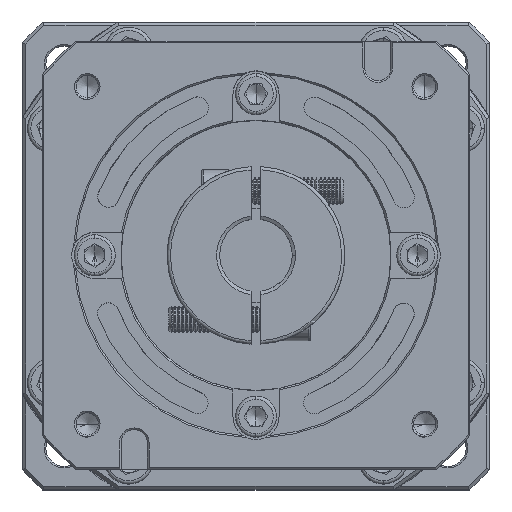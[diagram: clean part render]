
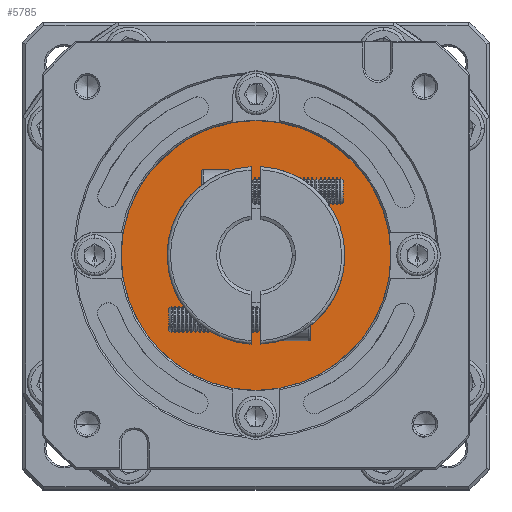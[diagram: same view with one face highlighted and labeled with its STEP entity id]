
A CAD part, top view. The second image highlights one B-rep face of the part: STEP entity #5785.
In plain terms, the highlighted planar face has unit normal (0, 0, 1).
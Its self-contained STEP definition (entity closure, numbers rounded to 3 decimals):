
#231 = DIRECTION ( 'NONE',  ( 0., 1., 0. ) ) ;
#4929 = EDGE_CURVE ( 'NONE', #55986, #148424, #42625, .T. ) ;
#5244 = EDGE_LOOP ( 'NONE', ( #45092, #140613 ) ) ;
#5785 = ADVANCED_FACE ( 'NONE', ( #62034, #22411 ), #90863, .T. ) ;
#8577 = DIRECTION ( 'NONE',  ( 0., 1., 0. ) ) ;
#9914 = CIRCLE ( 'NONE', #83239, 20. ) ;
#22411 = FACE_BOUND ( 'NONE', #5244, .T. ) ;
#35730 = DIRECTION ( 'NONE',  ( 0., 0., 1. ) ) ;
#37062 = CARTESIAN_POINT ( 'NONE',  ( -87.738, 67.014, -62.999 ) ) ;
#42625 = CIRCLE ( 'NONE', #95662, 41. ) ;
#42720 = CARTESIAN_POINT ( 'NONE',  ( -87.738, 87.014, -62.999 ) ) ;
#44326 = DIRECTION ( 'NONE',  ( 0., 1., 0. ) ) ;
#45092 = ORIENTED_EDGE ( 'NONE', *, *, #55431, .T. ) ;
#45818 = CIRCLE ( 'NONE', #98846, 20. ) ;
#47773 = DIRECTION ( 'NONE',  ( 0., 1., 0. ) ) ;
#51900 = DIRECTION ( 'NONE',  ( 0., 0., -1. ) ) ;
#55431 = EDGE_CURVE ( 'NONE', #124017, #97624, #9914, .T. ) ;
#55986 = VERTEX_POINT ( 'NONE', #114002 ) ;
#62034 = FACE_OUTER_BOUND ( 'NONE', #130348, .T. ) ;
#71934 = CARTESIAN_POINT ( 'NONE',  ( -87.738, 107.014, -62.999 ) ) ;
#73748 = CARTESIAN_POINT ( 'NONE',  ( -87.738, 46.014, -62.999 ) ) ;
#74404 = CARTESIAN_POINT ( 'NONE',  ( -87.738, 87.014, -62.999 ) ) ;
#83239 = AXIS2_PLACEMENT_3D ( 'NONE', #104683, #128407, #231 ) ;
#90361 = DIRECTION ( 'NONE',  ( 0., 0., 1. ) ) ;
#90863 = PLANE ( 'NONE',  #133771 ) ;
#95662 = AXIS2_PLACEMENT_3D ( 'NONE', #116146, #35730, #47773 ) ;
#97624 = VERTEX_POINT ( 'NONE', #37062 ) ;
#97641 = DIRECTION ( 'NONE',  ( 0., 1., 0. ) ) ;
#98846 = AXIS2_PLACEMENT_3D ( 'NONE', #42720, #51900, #8577 ) ;
#100731 = CIRCLE ( 'NONE', #101575, 41. ) ;
#101575 = AXIS2_PLACEMENT_3D ( 'NONE', #74404, #109267, #97641 ) ;
#103517 = CARTESIAN_POINT ( 'NONE',  ( -87.738, 87.014, -62.999 ) ) ;
#104683 = CARTESIAN_POINT ( 'NONE',  ( -87.738, 87.014, -62.999 ) ) ;
#105272 = EDGE_CURVE ( 'NONE', #97624, #124017, #45818, .T. ) ;
#109267 = DIRECTION ( 'NONE',  ( 0., 0., 1. ) ) ;
#110560 = ORIENTED_EDGE ( 'NONE', *, *, #134189, .T. ) ;
#114002 = CARTESIAN_POINT ( 'NONE',  ( -87.738, 128.014, -62.999 ) ) ;
#116146 = CARTESIAN_POINT ( 'NONE',  ( -87.738, 87.014, -62.999 ) ) ;
#122422 = ORIENTED_EDGE ( 'NONE', *, *, #4929, .T. ) ;
#124017 = VERTEX_POINT ( 'NONE', #71934 ) ;
#128407 = DIRECTION ( 'NONE',  ( 0., 0., -1. ) ) ;
#130348 = EDGE_LOOP ( 'NONE', ( #122422, #110560 ) ) ;
#133771 = AXIS2_PLACEMENT_3D ( 'NONE', #103517, #90361, #44326 ) ;
#134189 = EDGE_CURVE ( 'NONE', #148424, #55986, #100731, .T. ) ;
#140613 = ORIENTED_EDGE ( 'NONE', *, *, #105272, .T. ) ;
#148424 = VERTEX_POINT ( 'NONE', #73748 ) ;
